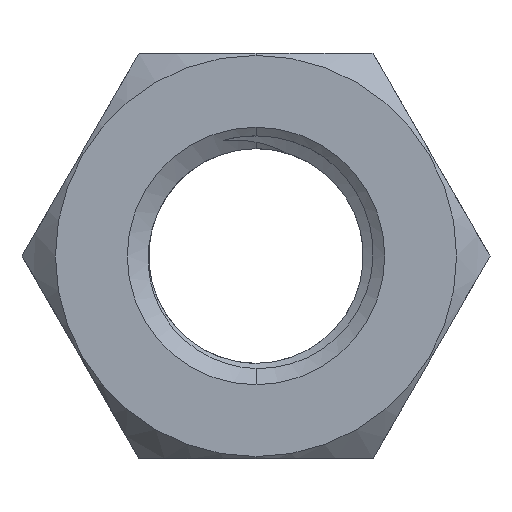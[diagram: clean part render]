
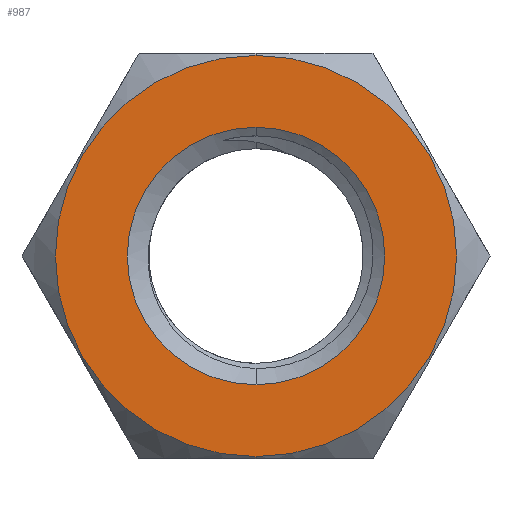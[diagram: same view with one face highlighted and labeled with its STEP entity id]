
A CAD part, front view. The second image highlights one B-rep face of the part: STEP entity #987.
In plain terms, the highlighted planar face has unit normal (0, -1, 0).
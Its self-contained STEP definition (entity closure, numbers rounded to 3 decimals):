
#11 = CIRCLE ( 'NONE', #1036, 8.415 ) ;
#24 = CARTESIAN_POINT ( 'NONE',  ( 0., -4., 0. ) ) ;
#218 = AXIS2_PLACEMENT_3D ( 'NONE', #1873, #737, #2533 ) ;
#241 = DIRECTION ( 'NONE',  ( 0., 0., -1. ) ) ;
#249 = EDGE_CURVE ( 'NONE', #931, #1308, #2611, .T. ) ;
#265 = EDGE_CURVE ( 'NONE', #1308, #931, #11, .T. ) ;
#306 = CARTESIAN_POINT ( 'NONE',  ( 0., -4., 8.415 ) ) ;
#323 = CARTESIAN_POINT ( 'NONE',  ( 0., -4., 0. ) ) ;
#445 = ORIENTED_EDGE ( 'NONE', *, *, #2153, .F. ) ;
#561 = ORIENTED_EDGE ( 'NONE', *, *, #249, .T. ) ;
#692 = FACE_BOUND ( 'NONE', #2577, .T. ) ;
#737 = DIRECTION ( 'NONE',  ( 0., 1., 0. ) ) ;
#931 = VERTEX_POINT ( 'NONE', #2353 ) ;
#987 = ADVANCED_FACE ( 'NONE', ( #692, #1603 ), #1586, .F. ) ;
#1021 = CARTESIAN_POINT ( 'NONE',  ( 0., -4., 5.4 ) ) ;
#1036 = AXIS2_PLACEMENT_3D ( 'NONE', #24, #1842, #241 ) ;
#1207 = VERTEX_POINT ( 'NONE', #2172 ) ;
#1273 = AXIS2_PLACEMENT_3D ( 'NONE', #323, #2874, #2403 ) ;
#1308 = VERTEX_POINT ( 'NONE', #306 ) ;
#1316 = AXIS2_PLACEMENT_3D ( 'NONE', #2987, #1384, #2090 ) ;
#1369 = AXIS2_PLACEMENT_3D ( 'NONE', #1998, #2705, #2226 ) ;
#1384 = DIRECTION ( 'NONE',  ( 0., -1., 0. ) ) ;
#1586 = PLANE ( 'NONE',  #218 ) ;
#1603 = FACE_OUTER_BOUND ( 'NONE', #1901, .T. ) ;
#1608 = ORIENTED_EDGE ( 'NONE', *, *, #265, .T. ) ;
#1842 = DIRECTION ( 'NONE',  ( 0., -1., 0. ) ) ;
#1873 = CARTESIAN_POINT ( 'NONE',  ( 0., -4., 0. ) ) ;
#1901 = EDGE_LOOP ( 'NONE', ( #1608, #561 ) ) ;
#1921 = EDGE_CURVE ( 'NONE', #2638, #1207, #2671, .T. ) ;
#1998 = CARTESIAN_POINT ( 'NONE',  ( 0., -4., 0. ) ) ;
#2090 = DIRECTION ( 'NONE',  ( 0., 0., -1. ) ) ;
#2153 = EDGE_CURVE ( 'NONE', #1207, #2638, #2388, .T. ) ;
#2172 = CARTESIAN_POINT ( 'NONE',  ( 0., -4., -5.4 ) ) ;
#2226 = DIRECTION ( 'NONE',  ( 0., 0., -1. ) ) ;
#2353 = CARTESIAN_POINT ( 'NONE',  ( 0., -4., -8.415 ) ) ;
#2388 = CIRCLE ( 'NONE', #1273, 5.4 ) ;
#2403 = DIRECTION ( 'NONE',  ( 0., 0., -1. ) ) ;
#2533 = DIRECTION ( 'NONE',  ( 0., 0., 1. ) ) ;
#2577 = EDGE_LOOP ( 'NONE', ( #2990, #445 ) ) ;
#2611 = CIRCLE ( 'NONE', #1316, 8.415 ) ;
#2638 = VERTEX_POINT ( 'NONE', #1021 ) ;
#2671 = CIRCLE ( 'NONE', #1369, 5.4 ) ;
#2705 = DIRECTION ( 'NONE',  ( 0., -1., 0. ) ) ;
#2874 = DIRECTION ( 'NONE',  ( 0., -1., 0. ) ) ;
#2987 = CARTESIAN_POINT ( 'NONE',  ( 0., -4., 0. ) ) ;
#2990 = ORIENTED_EDGE ( 'NONE', *, *, #1921, .F. ) ;
